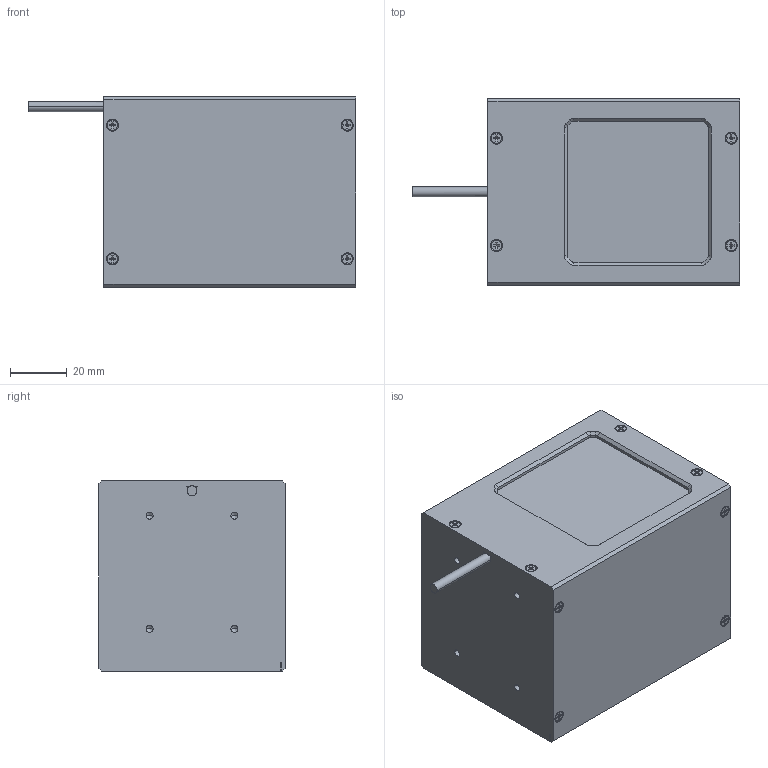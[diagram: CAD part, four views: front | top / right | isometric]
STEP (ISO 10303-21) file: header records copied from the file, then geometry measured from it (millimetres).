
FILE_DESCRIPTION((''),'2;1');
FILE_NAME('PRT0004','2022-10-19T01:14:35',('jiabaodong'),(''),'CREO PARAMETRIC BY PTC INC, 2020044','CREO PARAMETRIC BY PTC INC, 2020044','');
FILE_SCHEMA(('CONFIG_CONTROL_DESIGN'));
Length unit declared in the file: millimetre
Products named in the file (1): PRT0004
Bounding box: 115.74 x 66 x 67.3 mm (x, y, z)
Volume: 107436.8 mm3; surface area: 75701.9 mm2
Topology: 1 solids, 14 shells, 996 faces, 2356 edges, 1394 vertices
Faces by surface type: plane 571, cylinder 266, cone 119, torus 40
Entity records: 28181 total; most frequent: CARTESIAN_POINT 5368, DIRECTION 4811, ORIENTED_EDGE 4628, EDGE_CURVE 2314, AXIS2_PLACEMENT_3D 1635, VECTOR 1541, LINE 1541, VERTEX_POINT 1394
